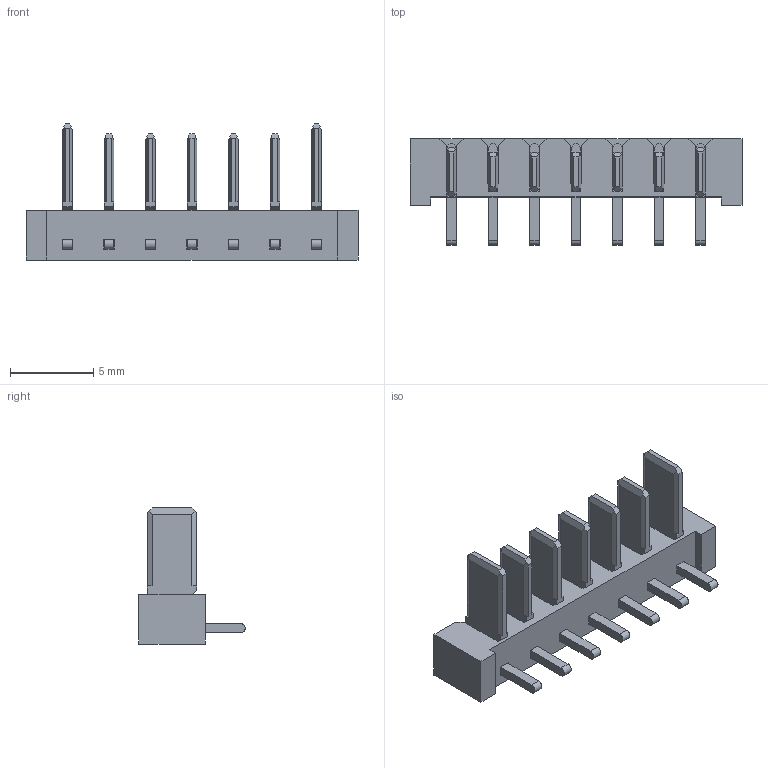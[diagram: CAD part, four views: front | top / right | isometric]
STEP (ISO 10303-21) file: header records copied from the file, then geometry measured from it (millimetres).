
FILE_DESCRIPTION((''),'2;1');
FILE_NAME('304A-2507PC2_C_1','2026-10-02T',('tim.lee'),(''),'CREO PARAMETRIC BY PTC INC, 2015080','CREO PARAMETRIC BY PTC INC, 2015080','');
FILE_SCHEMA(('CONFIG_CONTROL_DESIGN'));
Length unit declared in the file: millimetre
Products named in the file (1): 304A-2507PC2_C_1
Bounding box: 20 x 6.4 x 8.2 mm (x, y, z)
Volume: 260 mm3; surface area: 708.9 mm2
Topology: 1 solids, 1 shells, 304 faces, 993 edges, 656 vertices
Faces by surface type: plane 283, cylinder 21
Entity records: 10825 total; most frequent: ORIENTED_EDGE 1986, CARTESIAN_POINT 1953, DIRECTION 1643, EDGE_CURVE 993, VECTOR 951, LINE 951, VERTEX_POINT 656, AXIS2_PLACEMENT_3D 346
